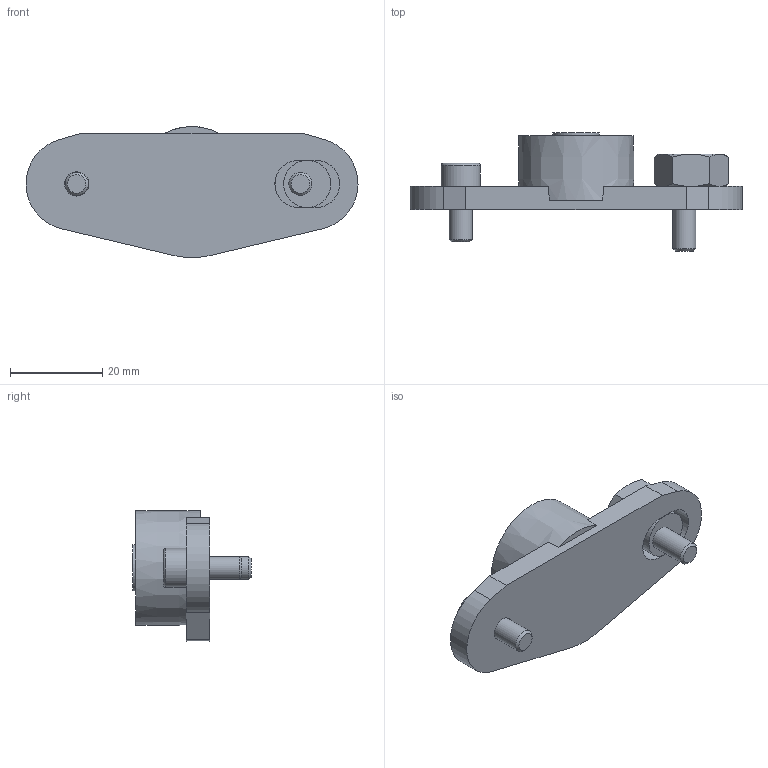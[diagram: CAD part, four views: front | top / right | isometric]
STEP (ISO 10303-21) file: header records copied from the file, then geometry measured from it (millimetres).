
FILE_DESCRIPTION( ( 'STEP AP203' ), '1' );
FILE_NAME( 'p:/temp/worker_105/temp/exporttempdir_6492_1262_ooVX1/format_1/BHR25E.stp', '2021-09-29T07:20:28', ( 'License CC BY-ND 4.0' ), ( 'CADENAS' ), ' ', 'PARTsolutions', ' ' );
FILE_SCHEMA( ( 'CONFIG_CONTROL_DESIGN' ) );
Length unit declared in the file: millimetre
Products named in the file (4): BHR25E; _BHR25E_E; HI_DIN912-M5x12; _BHR25E_SE
Assembly tree (3 placements, depth 2):
  BHR25E
    _BHR25E_E
    HI_DIN912-M5x12
    _BHR25E_SE
Bounding box: 71.99 x 25.6 x 28.4 mm (x, y, z)
Volume: 14815.3 mm3; surface area: 6398.6 mm2
Topology: 3 solids, 3 shells, 90 faces, 206 edges, 129 vertices
Faces by surface type: plane 52, cone 22, cylinder 12, torus 3, bspline 1
Full cylindrical faces by diameter (mm): 5 x2, 5.25 x1, 8.5 x2, 10 x1, 10.25 x1
Entity records: 2712 total; most frequent: CARTESIAN_POINT 628, DIRECTION 400, ORIENTED_EDGE 378, EDGE_CURVE 189, AXIS2_PLACEMENT_3D 150, VERTEX_POINT 128, EDGE_LOOP 116, FACE_OUTER_BOUND 101
